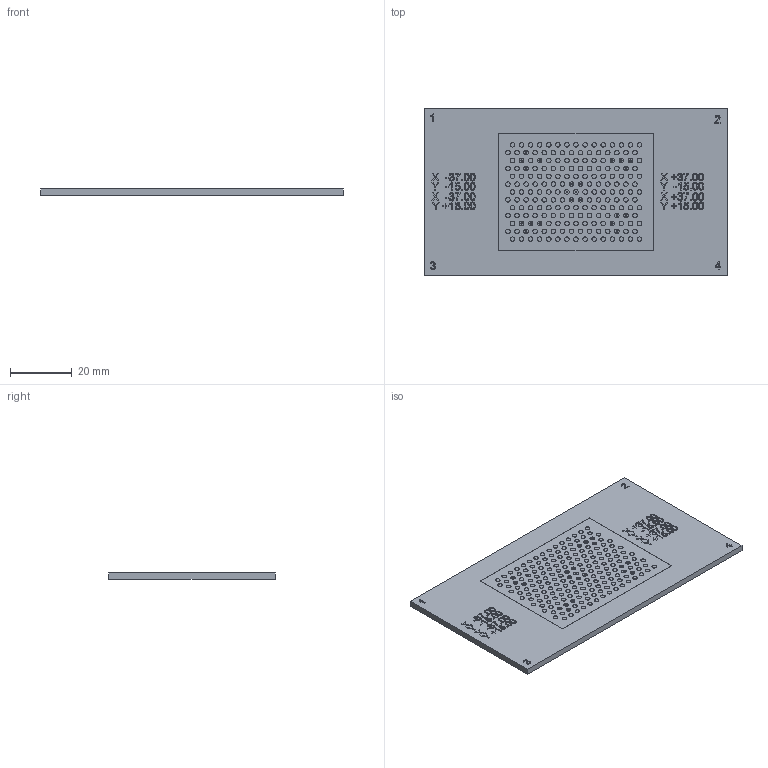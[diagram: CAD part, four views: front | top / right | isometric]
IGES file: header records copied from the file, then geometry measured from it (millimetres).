
Global section: file name: 153-13573_ZCP 50-13x15-X01_NEU; native system: Autodesk Inventor 2022; preprocessor: unknown; author: ss; date: 20220623.122247; units: millimetre
Bounding box: 98 x 54 x 2.05 mm (x, y, z)
Volume: 10666.1 mm3; surface area: 11274.4 mm2
Topology: 1 solids, 1 shells, 1129 faces, 2517 edges, 1695 vertices
Faces by surface type: bspline 1129
